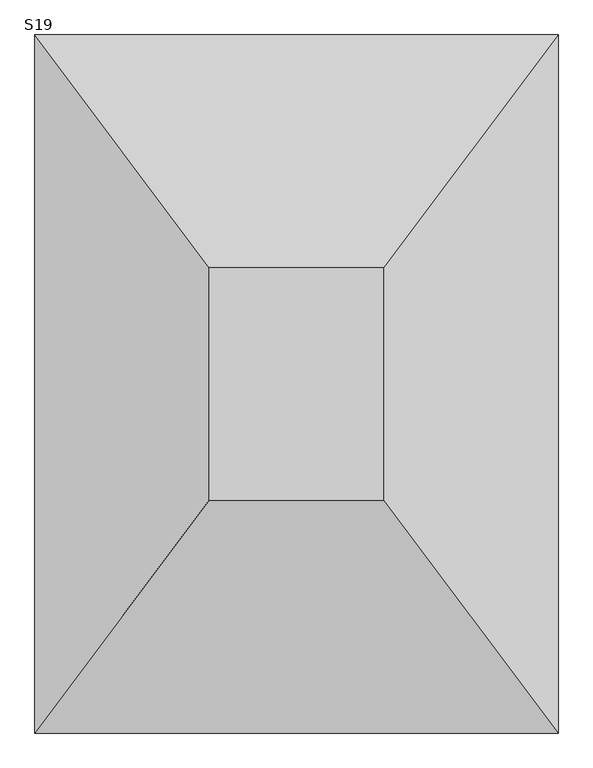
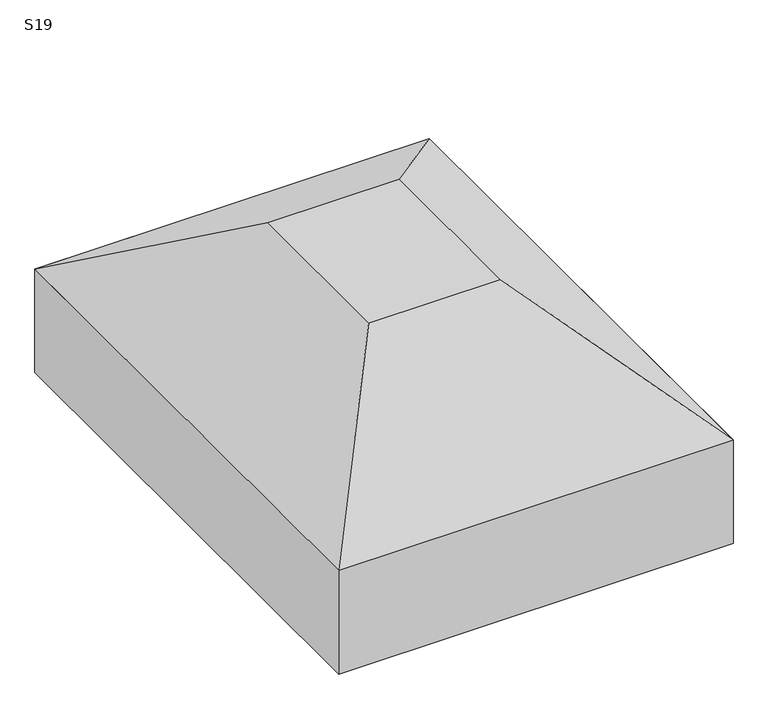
"""IFC4 building model written with IfcOpenShell, lengths in millimetres: fastener geometry, TQS - Sapata : S19."""

from ifc_helpers import new_model, si_unit, frame, origin, place, context, project, spatial, polyline, outline, extrude, faceted_brep, source, transform, mapped, element, save


def s19_83dd7731(model_context):
    return source(origin(), model_context, "Body", "SolidModel", [
        faceted_brep([(-50.0, 0.0, 0.0), (-350.0, 0.0, 0.0), (-350.0, -400.0, 0.0), (-50.0, -400.0, 0.0), (250.0, 400.0, -250.0), (250.0, -800.0, -250.0), (-650.0, -800.0, -250.0), (-650.0, 400.0, -250.0)], [[[0, 1, 2, 3]], [[4, 5, 6, 7]], [[4, 7, 1, 0]], [[7, 6, 2, 1]], [[6, 5, 3, 2]], [[5, 4, 0, 3]]]),
        extrude(outline(polyline([(250.0, 400.0), (250.0, -800.0), (-650.0, -800.0), (-650.0, 400.0), (250.0, 400.0)])), frame((0.0, 0.0, -500.0), z_axis=(0.0, 0.0, 1.0), x_axis=(1.0, 0.0, 0.0)), (0.0, 0.0, 1.0), 250.0),
    ])


if __name__ == "__main__":
    model = new_model("IFC4")
    model_context = context("Model", 3, world=origin())
    ifc_project = project(units=[si_unit("LENGTHUNIT", "METRE", prefix="MILLI")], contexts=[model_context])
    site = spatial("IfcSite", under=ifc_project)
    building = spatial("IfcBuilding", under=site)
    placement = place(None, origin())
    s19_shape = s19_83dd7731(model_context)
    element("IfcFastener", 1, ObjectType="TQS - Sapata : S19", at=placement, inside=building, context=model_context, shape_type="MappedRepresentation", body=[
        mapped(s19_shape, transform((0.0, 0.0, 0.0), x_axis=(1.0, 0.0, 0.0), y_axis=(0.0, 1.0, 0.0), z_axis=(0.0, 0.0, 1.0))),
    ])
    save(model, "model.ifc")
